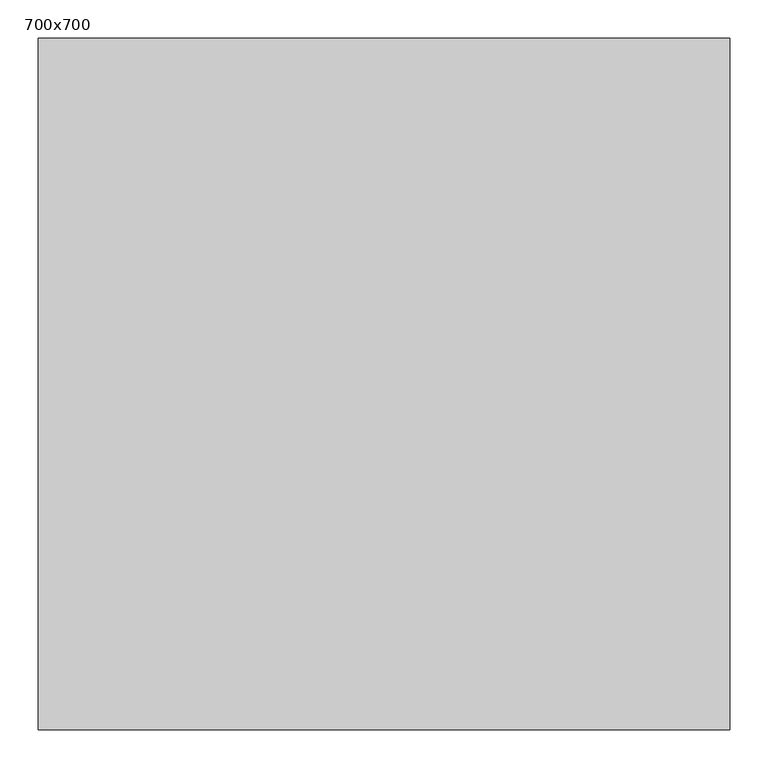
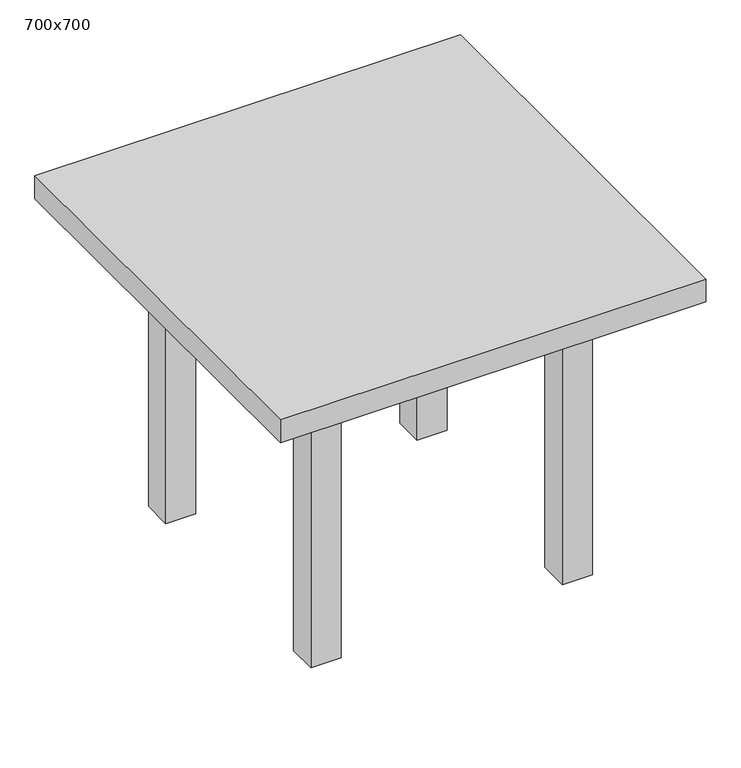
"""IFC4 building model written with IfcOpenShell, lengths in millimetres: furniture geometry, Fu_кухонный стол_LEG : 700x700."""

from ifc_helpers import new_model, si_unit, frame, origin, origin_with_axes, place, context, project, spatial, polyline, outline, extrude, source, transform, mapped, element, save


def furniture_700x700_51dbe41f(model_context):
    return source(origin(), model_context, "Body", "SweptSolid", [
        extrude(outline(polyline([(-315.9, 259.5), (-315.9, 234.1), (-784.1, 234.1), (-784.1, 259.5), (-315.9, 259.5)])), frame((0.0, 0.0, 547.6), z_axis=(0.0, 0.0, 1.0), x_axis=(1.0, 0.0, 0.0)), (0.0, 0.0, 1.0), 101.6),
        extrude(outline(polyline([(-315.9, -259.5), (-784.1, -259.5), (-784.1, -234.1), (-315.9, -234.1), (-315.9, -259.5)])), frame((0.0, 0.0, 547.6), z_axis=(0.0, 0.0, 1.0), x_axis=(1.0, 0.0, 0.0)), (0.0, 0.0, 1.0), 101.6),
        extrude(outline(polyline([(-796.8, -234.1), (-822.2, -234.1), (-822.2, 234.1), (-796.8, 234.1), (-796.8, -234.1)])), frame((0.0, 0.0, 547.6), z_axis=(0.0, 0.0, 1.0), x_axis=(1.0, 0.0, 0.0)), (0.0, 0.0, 1.0), 101.6),
        extrude(outline(polyline([(-303.2, -234.1), (-303.2, 234.1), (-277.8, 234.1), (-277.8, -234.1), (-303.2, -234.1)])), frame((0.0, 0.0, 547.6), z_axis=(0.0, 0.0, 1.0), x_axis=(1.0, 0.0, 0.0)), (0.0, 0.0, 1.0), 101.6),
        extrude(outline(polyline([(-784.1, 297.6), (-784.1, 234.1), (-847.6, 234.1), (-847.6, 297.6), (-784.1, 297.6)])), origin_with_axes(), (0.0, 0.0, 1.0), 649.2),
        extrude(outline(polyline([(-315.9, 297.6), (-252.4, 297.6), (-252.4, 234.1), (-315.9, 234.1), (-315.9, 297.6)])), origin_with_axes(), (0.0, 0.0, 1.0), 649.2),
        extrude(outline(polyline([(-784.1, -297.6), (-847.6, -297.6), (-847.6, -234.1), (-784.1, -234.1), (-784.1, -297.6)])), origin_with_axes(), (0.0, 0.0, 1.0), 649.2),
        extrude(outline(polyline([(-315.9, -297.6), (-315.9, -234.1), (-252.4, -234.1), (-252.4, -297.6), (-315.9, -297.6)])), origin_with_axes(), (0.0, 0.0, 1.0), 649.2),
        extrude(outline(polyline([(-100.0, 450.0), (-100.0, -450.0), (-1000.0, -450.0), (-1000.0, 450.0), (-100.0, 450.0)])), frame((0.0, 0.0, 649.2), z_axis=(0.0, 0.0, 1.0), x_axis=(1.0, 0.0, 0.0)), (0.0, 0.0, 1.0), 50.8),
    ])


if __name__ == "__main__":
    model = new_model("IFC4")
    model_context = context("Model", 3, world=origin())
    ifc_project = project(units=[si_unit("LENGTHUNIT", "METRE", prefix="MILLI")], contexts=[model_context])
    site = spatial("IfcSite", under=ifc_project)
    building = spatial("IfcBuilding", under=site)
    placement = place(None, origin())
    furniture_700x700_shape = furniture_700x700_51dbe41f(model_context)
    element("IfcFurniture", 1, ObjectType="Fu_кухонный стол_LEG : 700x700", at=placement, inside=building, context=model_context, shape_type="MappedRepresentation", body=[
        mapped(furniture_700x700_shape, transform((0.0, 0.0, 0.0), x_axis=(1.0, 0.0, 0.0), y_axis=(0.0, 1.0, 0.0), z_axis=(0.0, 0.0, 1.0))),
    ])
    save(model, "model.ifc")
